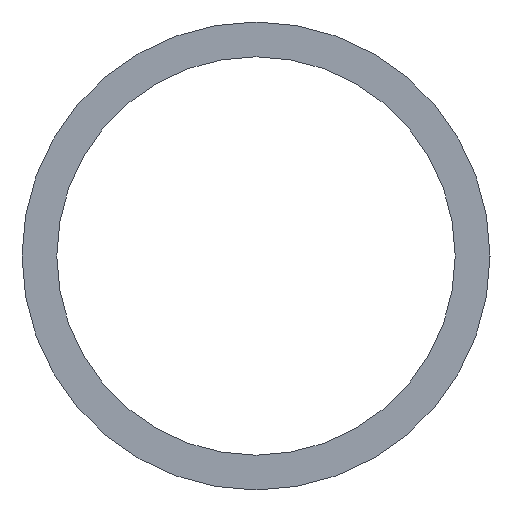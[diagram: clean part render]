
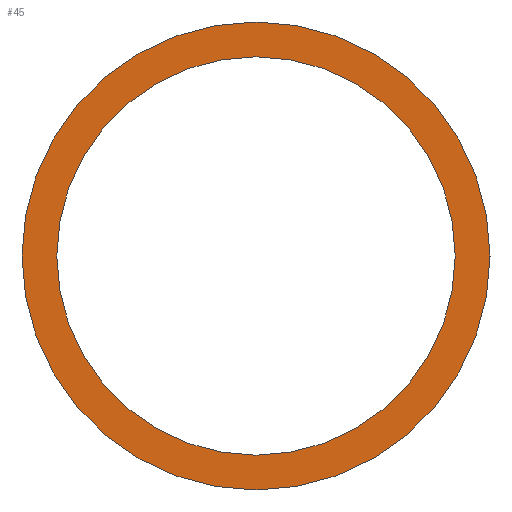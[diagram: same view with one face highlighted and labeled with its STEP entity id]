
A CAD part, left-side view. The second image highlights one B-rep face of the part: STEP entity #45.
In plain terms, the highlighted planar face has unit normal (-1, 0, 0).
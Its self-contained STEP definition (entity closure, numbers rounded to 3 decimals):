
#1 = CARTESIAN_POINT ( 'NONE',  ( 9120., 1900., 4798.45 ) ) ;
#12 = CARTESIAN_POINT ( 'NONE',  ( 9120., 1900., 4796.45 ) ) ;
#22 = DIRECTION ( 'NONE',  ( 0., 0., 1. ) ) ;
#26 = DIRECTION ( 'NONE',  ( -1., 0., 0. ) ) ;
#27 = DIRECTION ( 'NONE',  ( -1., 0., 0. ) ) ;
#34 = VERTEX_POINT ( 'NONE', #140 ) ;
#42 = CARTESIAN_POINT ( 'NONE',  ( 9120., 1900., 4785. ) ) ;
#45 = ADVANCED_FACE ( 'NONE', ( #107, #123 ), #72, .T. ) ;
#46 = DIRECTION ( 'NONE',  ( -1., 0., 0. ) ) ;
#49 = EDGE_LOOP ( 'NONE', ( #185, #118 ) ) ;
#57 = CIRCLE ( 'NONE', #61, 13.45 ) ;
#58 = DIRECTION ( 'NONE',  ( 0., 0., 1. ) ) ;
#61 = AXIS2_PLACEMENT_3D ( 'NONE', #42, #159, #22 ) ;
#64 = CARTESIAN_POINT ( 'NONE',  ( 9120., 1900., 4773.55 ) ) ;
#72 = PLANE ( 'NONE',  #138 ) ;
#74 = DIRECTION ( 'NONE',  ( 0., 0., 1. ) ) ;
#75 = CARTESIAN_POINT ( 'NONE',  ( 9120., 1900., 4785. ) ) ;
#88 = EDGE_LOOP ( 'NONE', ( #163, #98 ) ) ;
#91 = CARTESIAN_POINT ( 'NONE',  ( 9120., 1900., 4785. ) ) ;
#94 = DIRECTION ( 'NONE',  ( 0., 0., 1. ) ) ;
#98 = ORIENTED_EDGE ( 'NONE', *, *, #208, .F. ) ;
#100 = VERTEX_POINT ( 'NONE', #1 ) ;
#105 = DIRECTION ( 'NONE',  ( -1., 0., 0. ) ) ;
#106 = AXIS2_PLACEMENT_3D ( 'NONE', #213, #26, #178 ) ;
#107 = FACE_OUTER_BOUND ( 'NONE', #49, .T. ) ;
#110 = CIRCLE ( 'NONE', #113, 11.45 ) ;
#113 = AXIS2_PLACEMENT_3D ( 'NONE', #91, #46, #74 ) ;
#118 = ORIENTED_EDGE ( 'NONE', *, *, #198, .T. ) ;
#120 = CIRCLE ( 'NONE', #191, 13.45 ) ;
#122 = CARTESIAN_POINT ( 'NONE',  ( 9120., 1900., 4785. ) ) ;
#123 = FACE_BOUND ( 'NONE', #88, .T. ) ;
#124 = CIRCLE ( 'NONE', #106, 11.45 ) ;
#138 = AXIS2_PLACEMENT_3D ( 'NONE', #122, #105, #58 ) ;
#140 = CARTESIAN_POINT ( 'NONE',  ( 9120., 1900., 4771.55 ) ) ;
#146 = VERTEX_POINT ( 'NONE', #64 ) ;
#154 = EDGE_CURVE ( 'NONE', #146, #186, #124, .T. ) ;
#159 = DIRECTION ( 'NONE',  ( -1., 0., 0. ) ) ;
#163 = ORIENTED_EDGE ( 'NONE', *, *, #154, .F. ) ;
#178 = DIRECTION ( 'NONE',  ( 0., 0., 1. ) ) ;
#180 = EDGE_CURVE ( 'NONE', #34, #100, #120, .T. ) ;
#185 = ORIENTED_EDGE ( 'NONE', *, *, #180, .T. ) ;
#186 = VERTEX_POINT ( 'NONE', #12 ) ;
#191 = AXIS2_PLACEMENT_3D ( 'NONE', #75, #27, #94 ) ;
#198 = EDGE_CURVE ( 'NONE', #100, #34, #57, .T. ) ;
#208 = EDGE_CURVE ( 'NONE', #186, #146, #110, .T. ) ;
#213 = CARTESIAN_POINT ( 'NONE',  ( 9120., 1900., 4785. ) ) ;
